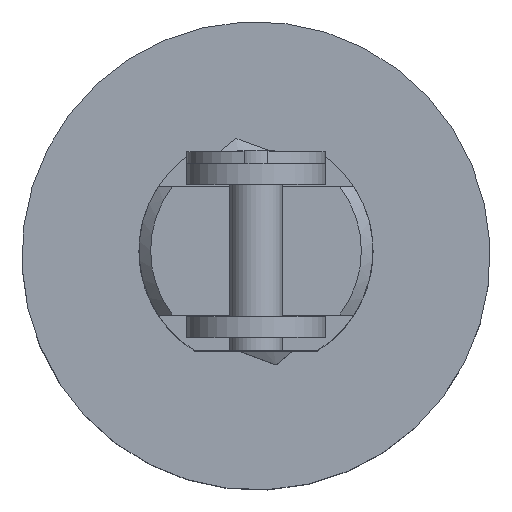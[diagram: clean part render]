
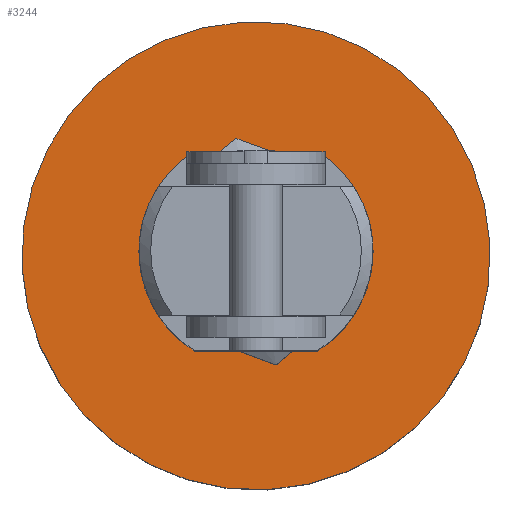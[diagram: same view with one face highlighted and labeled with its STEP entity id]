
A CAD part, top view. The second image highlights one B-rep face of the part: STEP entity #3244.
In plain terms, the highlighted planar face has unit normal (0, 0, 1).
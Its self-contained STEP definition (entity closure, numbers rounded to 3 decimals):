
#3182=CARTESIAN_POINT('',(6.,0.,15.0));
#3183=VERTEX_POINT('',#3182);
#3184=CARTESIAN_POINT('',(0.0,0.0,15.0));
#3185=DIRECTION('',(0.0,0.0,-1.0));
#3186=DIRECTION('',(-1.0,0.0,0.0));
#3187=AXIS2_PLACEMENT_3D('',#3184,#3185,#3186);
#3188=CIRCLE('',#3187,6.);
#3189=EDGE_CURVE('',#3183,#3183,#3188,.T.);
#3210=CARTESIAN_POINT('',(20.0,0.,15.0));
#3211=VERTEX_POINT('',#3210);
#3212=CARTESIAN_POINT('',(0.0,0.0,15.0));
#3213=DIRECTION('',(0.0,0.0,-1.0));
#3214=DIRECTION('',(-1.0,0.0,0.0));
#3215=AXIS2_PLACEMENT_3D('',#3212,#3213,#3214);
#3216=CIRCLE('',#3215,20.0);
#3217=EDGE_CURVE('',#3211,#3211,#3216,.T.);
#3233=CARTESIAN_POINT('',(0.0,0.0,15.0));
#3234=DIRECTION('',(0.0,0.0,-1.0));
#3235=DIRECTION('',(-1.0,0.0,0.0));
#3236=AXIS2_PLACEMENT_3D('',#3233,#3234,#3235);
#3237=PLANE('',#3236);
#3238=ORIENTED_EDGE('',*,*,#3217,.F.);
#3239=EDGE_LOOP('',(#3238));
#3240=FACE_OUTER_BOUND('',#3239,.T.);
#3241=ORIENTED_EDGE('',*,*,#3189,.T.);
#3242=EDGE_LOOP('',(#3241));
#3243=FACE_BOUND('',#3242,.T.);
#3244=ADVANCED_FACE('',(#3240,#3243),#3237,.F.);
